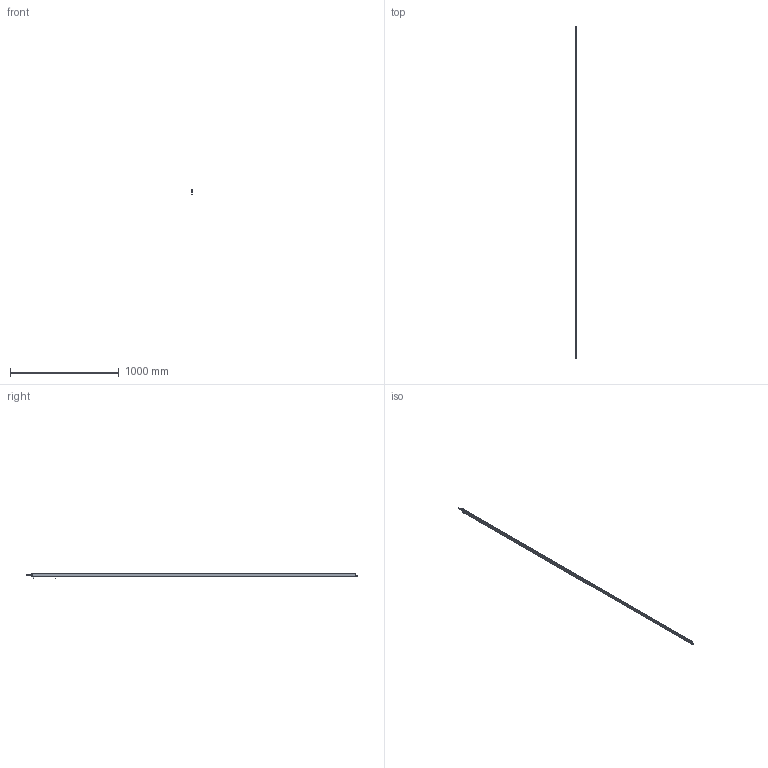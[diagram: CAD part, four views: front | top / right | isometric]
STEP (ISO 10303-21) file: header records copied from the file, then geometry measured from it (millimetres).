
FILE_DESCRIPTION (( 'STEP AP214' ), '1' );
FILE_NAME ('ILG-B-K2-2973mm.STEP', '2017-07-10T13:08:17', ( '' ), ( '' ), 'SwSTEP 2.0', 'SolidWorks 2016', '' );
FILE_SCHEMA (( 'AUTOMOTIVE_DESIGN' ));
Length unit declared in the file: millimetre
Products named in the file (1): ILG-B-K2-2973mm
Bounding box: 9 x 3046.5 x 46.21 mm (x, y, z)
Surface area: 491494.3 mm2 (no closed solid volume)
Topology: 0 solids, 15 shells, 702 faces, 1822 edges, 1157 vertices
Faces by surface type: cylinder 287, plane 266, cone 99, bspline 32, torus 18
Entity records: 31388 total; most frequent: CARTESIAN_POINT 6631, ORIENTED_EDGE 3597, DIRECTION 3488, EDGE_CURVE 1806, AXIS2_PLACEMENT_3D 1342, VERTEX_POINT 1157, LINE 804, VECTOR 804
